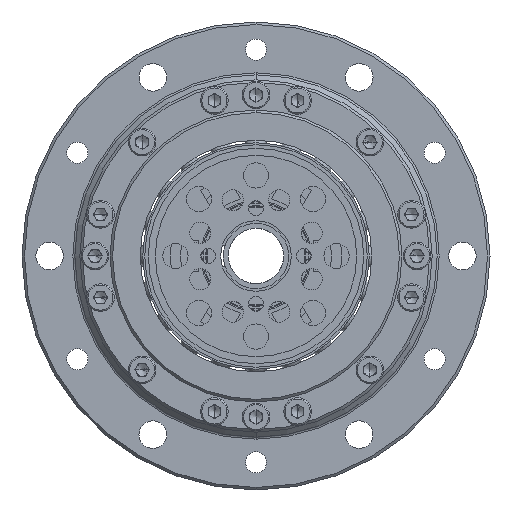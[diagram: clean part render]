
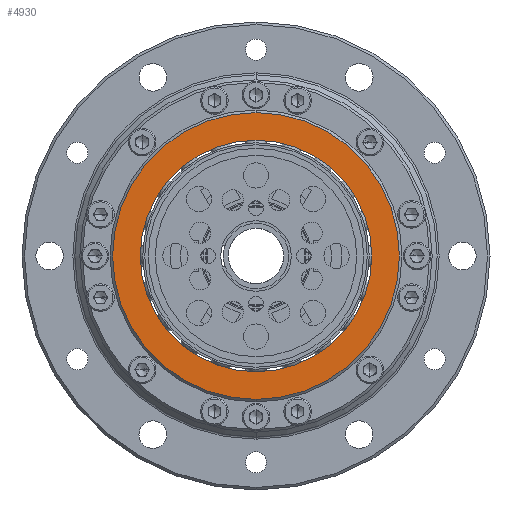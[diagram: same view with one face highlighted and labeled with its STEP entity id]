
A CAD part, left-side view. The second image highlights one B-rep face of the part: STEP entity #4930.
In plain terms, the highlighted planar face has unit normal (-1, 0, 0).
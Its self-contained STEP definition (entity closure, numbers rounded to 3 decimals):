
#633 = CARTESIAN_POINT ( 'NONE',  ( -34.803, 4.942, 121.5 ) ) ;
#1461 = DIRECTION ( 'NONE',  ( 0., 0., 1. ) ) ;
#2335 = AXIS2_PLACEMENT_3D ( 'NONE', #16380, #16266, #17033 ) ;
#2665 = DIRECTION ( 'NONE',  ( -1., 0., 0. ) ) ;
#3433 = AXIS2_PLACEMENT_3D ( 'NONE', #22200, #11839, #1461 ) ;
#3749 = CIRCLE ( 'NONE', #10787, 23. ) ;
#4528 = ORIENTED_EDGE ( 'NONE', *, *, #12597, .T. ) ;
#4554 = ORIENTED_EDGE ( 'NONE', *, *, #12008, .T. ) ;
#4639 = EDGE_CURVE ( 'NONE', #19201, #18883, #13992, .T. ) ;
#4930 = ADVANCED_FACE ( 'NONE', ( #6386, #20006 ), #13058, .T. ) ;
#5330 = DIRECTION ( 'NONE',  ( -1., 0., 0. ) ) ;
#6386 = FACE_OUTER_BOUND ( 'NONE', #9242, .T. ) ;
#6572 = CARTESIAN_POINT ( 'NONE',  ( -34.803, 4.942, 93. ) ) ;
#8291 = DIRECTION ( 'NONE',  ( 0., 0., 1. ) ) ;
#9242 = EDGE_LOOP ( 'NONE', ( #4554, #4528 ) ) ;
#9550 = EDGE_CURVE ( 'NONE', #18883, #19201, #3749, .T. ) ;
#9698 = ORIENTED_EDGE ( 'NONE', *, *, #4639, .F. ) ;
#10787 = AXIS2_PLACEMENT_3D ( 'NONE', #15732, #5330, #17473 ) ;
#11086 = VERTEX_POINT ( 'NONE', #17719 ) ;
#11839 = DIRECTION ( 'NONE',  ( -1., 0., 0. ) ) ;
#11915 = CARTESIAN_POINT ( 'NONE',  ( -34.803, 4.942, 116. ) ) ;
#12008 = EDGE_CURVE ( 'NONE', #11086, #15500, #13311, .T. ) ;
#12597 = EDGE_CURVE ( 'NONE', #15500, #11086, #16268, .T. ) ;
#12892 = CARTESIAN_POINT ( 'NONE',  ( -34.803, 4.942, 93. ) ) ;
#13058 = PLANE ( 'NONE',  #14672 ) ;
#13311 = CIRCLE ( 'NONE', #19248, 28.5 ) ;
#13598 = DIRECTION ( 'NONE',  ( 0., 0., 1. ) ) ;
#13992 = CIRCLE ( 'NONE', #2335, 23. ) ;
#14672 = AXIS2_PLACEMENT_3D ( 'NONE', #12892, #2665, #13598 ) ;
#15172 = EDGE_LOOP ( 'NONE', ( #9698, #18188 ) ) ;
#15500 = VERTEX_POINT ( 'NONE', #633 ) ;
#15732 = CARTESIAN_POINT ( 'NONE',  ( -34.803, 4.942, 93. ) ) ;
#16266 = DIRECTION ( 'NONE',  ( -1., 0., 0. ) ) ;
#16268 = CIRCLE ( 'NONE', #3433, 28.5 ) ;
#16380 = CARTESIAN_POINT ( 'NONE',  ( -34.803, 4.942, 93. ) ) ;
#17033 = DIRECTION ( 'NONE',  ( 0., 0., 1. ) ) ;
#17473 = DIRECTION ( 'NONE',  ( 0., 0., 1. ) ) ;
#17719 = CARTESIAN_POINT ( 'NONE',  ( -34.803, 4.942, 64.5 ) ) ;
#18188 = ORIENTED_EDGE ( 'NONE', *, *, #9550, .F. ) ;
#18688 = DIRECTION ( 'NONE',  ( -1., 0., 0. ) ) ;
#18883 = VERTEX_POINT ( 'NONE', #20523 ) ;
#19201 = VERTEX_POINT ( 'NONE', #11915 ) ;
#19248 = AXIS2_PLACEMENT_3D ( 'NONE', #6572, #18688, #8291 ) ;
#20006 = FACE_BOUND ( 'NONE', #15172, .T. ) ;
#20523 = CARTESIAN_POINT ( 'NONE',  ( -34.803, 4.942, 70. ) ) ;
#22200 = CARTESIAN_POINT ( 'NONE',  ( -34.803, 4.942, 93. ) ) ;
